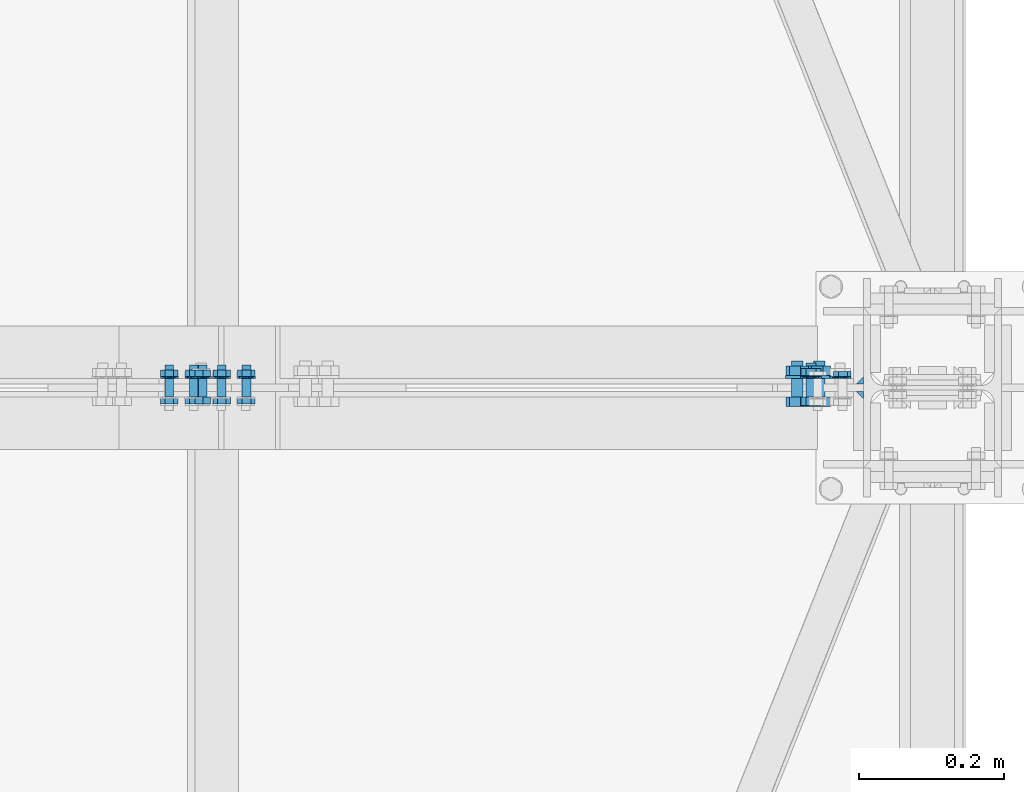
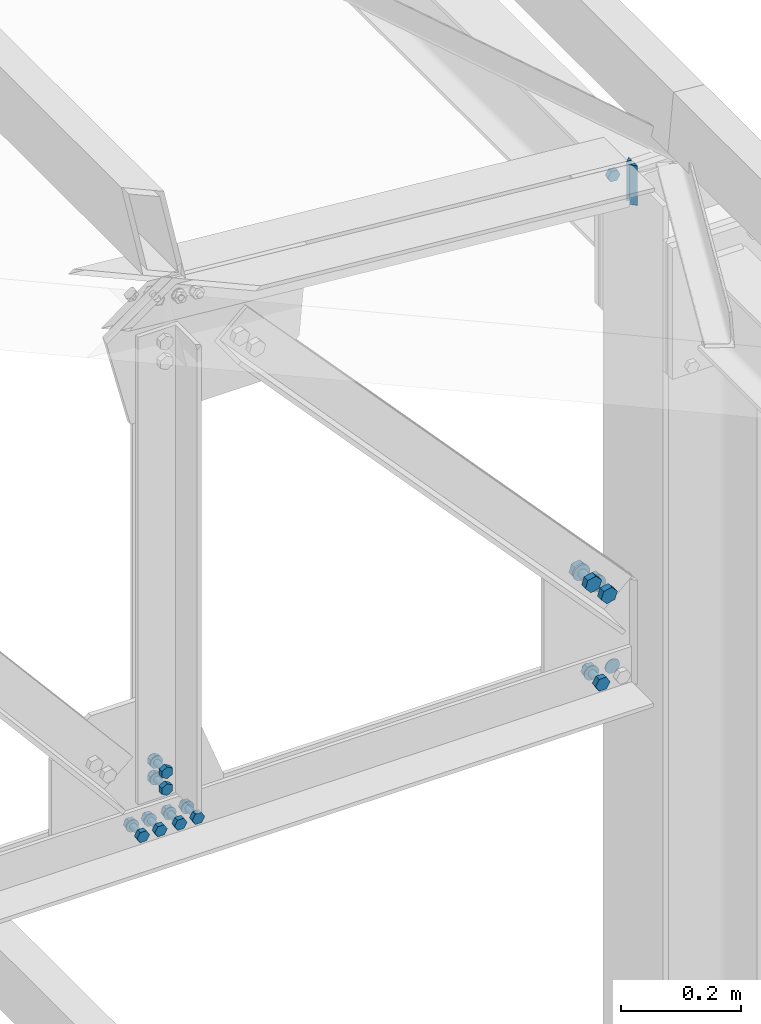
# One storey, part 161 of 251: 38 mechanical fasteners, 2 fasteners.
"""IFC4 building model written with IfcOpenShell, lengths in metres."""

import ifcopenshell
import ifcopenshell.guid

model = None  # the IFC model being written
_history = None  # IfcOwnerHistory: only IFC2X3 demands one
_inside = {}  # id of a spatial element -> (the spatial element, [elements in it])
_under = {}  # id of a project, library or spatial element -> (it, [spatial elements below it])
_declared = {}  # id of a project -> (the project, [libraries it declares])
_typed = {}  # id of a type object -> (the type object, [elements of that type])
_made_of = {}  # id of a material, layer set ... -> (it, [elements and type objects made of it])


def new_model(schema):
    """Start an empty IFC model of exactly this schema.

    Asked for "IFC4X3", IfcOpenShell would pick the latest addendum, in which some entities
    have other attributes; the version numbers below select the first issue.
    IFC2X3 requires an IfcOwnerHistory on every rooted entity: one is made here for all.
    """
    global model, _history
    if schema == "IFC4X3":
        model = ifcopenshell.file(schema_version=(4, 3, 0, 0))
    else:
        model = ifcopenshell.file(schema=schema)
    _inside.clear()
    _under.clear()
    _declared.clear()
    _typed.clear()
    _made_of.clear()
    _history = None
    if model.schema == "IFC2X3":
        org = make("IfcOrganization", Name="unknown")
        user = make(
            "IfcPersonAndOrganization",
            ThePerson=make("IfcPerson", FamilyName="unknown"),
            TheOrganization=org,
        )
        app = make(
            "IfcApplication",
            ApplicationDeveloper=org,
            Version="unknown",
            ApplicationFullName="unknown",
            ApplicationIdentifier="unknown",
        )
        _history = make(
            "IfcOwnerHistory",
            OwningUser=user,
            OwningApplication=app,
            ChangeAction="ADDED",
            CreationDate=0,
        )
    return model


def make(cls, **values):
    """One entity of the class cls with the attributes given. An attribute that is None is left unset."""
    return model.create_entity(
        cls, **{name: value for name, value in values.items() if value is not None}
    )


def rooted(cls, **values):
    """An entity with a GlobalId (a new one), such as an element, a storey or a relation."""
    return make(cls, GlobalId=ifcopenshell.guid.new(), OwnerHistory=_history, **values)


def si_unit(unit_type, name, prefix=None):
    """IfcSIUnit, for example si_unit("LENGTHUNIT", "METRE", prefix="MILLI")."""
    return make("IfcSIUnit", UnitType=unit_type, Prefix=prefix, Name=name)


def assignment(units):
    """IfcUnitAssignment: the units of a project."""
    return None if units is None else make("IfcUnitAssignment", Units=units)


def point(xyz):
    """IfcCartesianPoint."""
    return None if xyz is None else make("IfcCartesianPoint", Coordinates=xyz)


def direction(xyz):
    """IfcDirection."""
    return None if xyz is None else make("IfcDirection", DirectionRatios=xyz)


def frame(location, z_axis=None, x_axis=None):
    """IfcAxis2Placement3D, a coordinate frame: its origin and axes. An axis left out is left unset."""
    return make(
        "IfcAxis2Placement3D",
        Location=point(location),
        Axis=direction(z_axis),
        RefDirection=direction(x_axis),
    )


def origin_with_axes():
    """The frame at (0, 0, 0) with the z axis (0, 0, 1) and the x axis (1, 0, 0) written out."""
    return frame((0.0, 0.0, 0.0), z_axis=(0.0, 0.0, 1.0), x_axis=(1.0, 0.0, 0.0))


def place(relative_to, where):
    """IfcLocalPlacement: puts the frame where relative to a parent placement (None: the world)."""
    return make(
        "IfcLocalPlacement", PlacementRelTo=relative_to, RelativePlacement=where
    )


def context(
    kind, dimensions, precision=None, world=None, true_north=None, identifier=None
):
    """IfcGeometricRepresentationContext, for example the 3D "Model" context."""
    return make(
        "IfcGeometricRepresentationContext",
        ContextIdentifier=identifier,
        ContextType=kind,
        CoordinateSpaceDimension=dimensions,
        Precision=precision,
        WorldCoordinateSystem=world,
        TrueNorth=true_north,
    )


def project(units=None, contexts=None):
    """IfcProject with its units and contexts."""
    return rooted(
        "IfcProject",
        Name="project",
        RepresentationContexts=contexts,
        UnitsInContext=assignment(units),
    )


def spatial(cls, under=None, at=None, **own):
    """A site, building, storey or space (cls), placed at a placement, below another one or the project."""
    s = rooted(cls, ObjectPlacement=at, **own)
    if under is not None:
        _under.setdefault(under.id(), (under, []))[1].append(s)
    return s


def polyline(points):
    """IfcPolyline through the points."""
    return make("IfcPolyline", Points=[point(p) for p in points])


def outline(outer, holes=None, kind="AREA"):
    """IfcArbitraryClosedProfileDef: a profile drawn as a closed curve; with holes, ...WithVoids."""
    if holes is None:
        return make("IfcArbitraryClosedProfileDef", ProfileType=kind, OuterCurve=outer)
    return make(
        "IfcArbitraryProfileDefWithVoids",
        ProfileType=kind,
        OuterCurve=outer,
        InnerCurves=holes,
    )


def extrude(swept, where, along, depth):
    """IfcExtrudedAreaSolid: the profile swept, set in the frame where, extruded along a direction by depth."""
    return make(
        "IfcExtrudedAreaSolid",
        SweptArea=swept,
        Position=where,
        ExtrudedDirection=direction(along),
        Depth=depth,
    )


def shape(context_of_items, identifier, shape_type, items):
    """IfcShapeRepresentation: the items that make up one representation, for example the "Body"."""
    return make(
        "IfcShapeRepresentation",
        ContextOfItems=context_of_items,
        RepresentationIdentifier=identifier,
        RepresentationType=shape_type,
        Items=items,
    )


def made_of(thing, what):
    """Note that an element or type object is made of a material, layer set ...; save() writes the relation."""
    if what is not None:
        _made_of.setdefault(what.id(), (what, []))[1].append(thing)
    return thing


def type_object(cls, material=None, **own):
    """A type object (cls), such as IfcWallType, which elements share."""
    return made_of(rooted(cls, **own), material)


def element(
    cls,
    number,
    at=None,
    inside=None,
    cuts=None,
    type_object=None,
    material=None,
    context=None,
    identifier="Body",
    shape_type=None,
    held_by="IfcProductDefinitionShape",
    body=None,
    shapes=None,
    **own,
):
    """One element of the class cls, such as IfcWall. Its Tag is "e" and its number.

    at: its placement. inside: the storey or other place that contains it. cuts: it is an
    opening in that element (IfcRelVoidsElement). A single representation is given by context,
    identifier, shape_type and body (its items); several are given by shapes. held_by: the class
    of the entity that holds the representations. save() writes the other relations.
    """
    e = rooted(cls, Tag="e%d" % number, ObjectPlacement=at, **own)
    if body is not None:
        shapes = [shape(context, identifier, shape_type, body)]
    if shapes is not None:
        e.Representation = make(held_by, Representations=shapes)
    if inside is not None:
        _inside.setdefault(inside.id(), (inside, []))[1].append(e)
    if cuts is not None:
        rooted(
            "IfcRelVoidsElement", RelatingBuildingElement=cuts, RelatedOpeningElement=e
        )
    if type_object is not None:
        _typed.setdefault(type_object.id(), (type_object, []))[1].append(e)
    return made_of(e, material)


def aggregate(whole, parts):
    """IfcRelAggregates: a whole, such as a stair, and the parts it consists of."""
    return rooted("IfcRelAggregates", RelatingObject=whole, RelatedObjects=parts)


def save(model, path):
    """Write the relations noted so far, then the file.

    IfcRelAggregates (storeys below a building ...), IfcRelContainedInSpatialStructure (elements
    in a storey), IfcRelDefinesByType, IfcRelAssociatesMaterial and IfcRelDeclares: one each for
    every whole, place, type object, material and project.
    """
    for whole, parts in _under.values():
        aggregate(whole, parts)
    for where, things in _inside.values():
        rooted(
            "IfcRelContainedInSpatialStructure",
            RelatedElements=things,
            RelatingStructure=where,
        )
    for kind, things in _typed.values():
        rooted("IfcRelDefinesByType", RelatedObjects=things, RelatingType=kind)
    for what, things in _made_of.values():
        rooted("IfcRelAssociatesMaterial", RelatedObjects=things, RelatingMaterial=what)
    for by, libraries in _declared.values():
        rooted("IfcRelDeclares", RelatingContext=by, RelatedDefinitions=libraries)
    model.write(path)


model = new_model("IFC4")

# Units and contexts
model_context = context("Model", 3, precision=1e-05, world=origin_with_axes())
ifc_project = project(units=[si_unit("LENGTHUNIT", "METRE"), si_unit("AREAUNIT", "SQUARE_METRE"), si_unit("VOLUMEUNIT", "CUBIC_METRE"), si_unit("MASSUNIT", "GRAM", prefix="KILO"), si_unit("TIMEUNIT", "SECOND"), si_unit("PLANEANGLEUNIT", "RADIAN"), si_unit("SOLIDANGLEUNIT", "STERADIAN"), si_unit("THERMODYNAMICTEMPERATUREUNIT", "DEGREE_CELSIUS")], contexts=[model_context])

# Site, building, storey
placement_1 = place(None, origin_with_axes())
site = spatial("IfcSite", under=ifc_project, at=placement_1, Name="Italia", CompositionType="ELEMENT")
building = spatial("IfcBuilding", under=site, at=placement_1, Name="Deposito", CompositionType="ELEMENT")
storey = spatial("IfcBuildingStorey", under=building, at=placement_1, Name="Storey 0", CompositionType="ELEMENT", Elevation=0.0)

# Mechanical fasteners
mechanical_fastener_type_1 = type_object("IfcMechanicalFastenerType", Name="Reticolare 4", PredefinedType="BOLT")
placement_2 = place(placement_1, origin_with_axes())
mechanical_fastener_1_placement = place(placement_2, origin_with_axes())
element("IfcMechanicalFastener", 1, at=mechanical_fastener_1_placement, inside=storey, type_object=mechanical_fastener_type_1, Name="Reticolare 4", NominalDiameter=0.028, context=model_context, shape_type="SweptSolid", body=[
    extrude(outline(polyline([(0.0, 0.0), (-0.000476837, -0.00362349), (-0.00187492, -0.00699997), (-0.0041008, -0.00989962), (-0.00699997, -0.0121245), (-0.010376, -0.0135231), (-0.0139999, -0.0139999), (-0.0176239, -0.0135231), (-0.0209999, -0.0121245), (-0.0238991, -0.00989962), (-0.026125, -0.00699997), (-0.027523, -0.00362349), (-0.0279999, 0.0), (-0.027523, 0.00362349), (-0.026125, 0.00699997), (-0.0238991, 0.00989962), (-0.0209999, 0.0121245), (-0.0176239, 0.0135231), (-0.0139999, 0.0139999), (-0.010376, 0.0135231), (-0.00699997, 0.0121245), (-0.0041008, 0.00989962), (-0.00187492, 0.00699997), (-0.000476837, 0.00362349), (0.0, 0.0)])), frame((19.887, 10.015, 5.009), z_axis=(0.0, -1.0, 0.0), x_axis=(1.0, 0.0, 0.0)), (0.0, 0.0, 1.0), 0.00200081),
])
mechanical_fastener_type_2 = type_object("IfcMechanicalFastenerType", Name="Reticolare 4", PredefinedType="BOLT")
mechanical_fastener_2_placement = place(placement_2, origin_with_axes())
element("IfcMechanicalFastener", 2, at=mechanical_fastener_2_placement, inside=storey, type_object=mechanical_fastener_type_2, Name="Reticolare 4", NominalDiameter=0.0139997, context=model_context, shape_type="SweptSolid", body=[
    extrude(outline(polyline([(0.0, 0.0), (-0.0139999, 0.0), (-0.0209999, 0.0121241), (-0.0139999, 0.0242486), (0.0, 0.0242486), (0.00699997, 0.0121241), (0.0, 0.0)])), frame((19.84, 9.987, 4.99688), z_axis=(0.0, -1.0, 0.0), x_axis=(1.0, 0.0, 0.0)), (0.0, 0.0, 1.0), 0.0112009),
])
mechanical_fastener_type_3 = type_object("IfcMechanicalFastenerType", Name="Reticolare 4", PredefinedType="BOLT")
mechanical_fastener_3_placement = place(placement_2, origin_with_axes())
element("IfcMechanicalFastener", 3, at=mechanical_fastener_3_placement, inside=storey, type_object=mechanical_fastener_type_3, Name="Reticolare 4", NominalDiameter=0.014, context=model_context, shape_type="SweptSolid", body=[
    extrude(outline(polyline([(0.0, 0.0), (-0.000238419, -0.0018115), (-0.000938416, -0.00349998), (-0.0020504, -0.00494957), (-0.00349998, -0.00606203), (-0.00518799, -0.00676155), (-0.00699997, -0.00699997), (-0.00881195, -0.00676155), (-0.0105, -0.00606203), (-0.0119495, -0.00494957), (-0.0130615, -0.00349998), (-0.0137615, -0.0018115), (-0.0139999, 0.0), (-0.0137615, 0.0018115), (-0.0130615, 0.00349998), (-0.0119495, 0.00494957), (-0.0105, 0.00606203), (-0.00881195, 0.00676155), (-0.00699997, 0.00699997), (-0.00518799, 0.00676155), (-0.00349998, 0.00606203), (-0.0020504, 0.00494957), (-0.000938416, 0.00349998), (-0.000238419, 0.0018115), (0.0, 0.0)])), frame((19.84, 10.034, 5.009), z_axis=(0.0, -1.0, 0.0), x_axis=(1.0, 0.0, 0.0)), (0.0, 0.0, 1.0), 0.0469999),
])
mechanical_fastener_type_4 = type_object("IfcMechanicalFastenerType", Name="Reticolare 4", PredefinedType="BOLT")
mechanical_fastener_4_placement = place(placement_2, origin_with_axes())
element("IfcMechanicalFastener", 4, at=mechanical_fastener_4_placement, inside=storey, type_object=mechanical_fastener_type_4, Name="Reticolare 4", NominalDiameter=0.0139997, context=model_context, shape_type="SweptSolid", body=[
    extrude(outline(polyline([(0.0, 0.0), (-0.0139999, 0.0), (-0.0209999, 0.0121241), (-0.0139999, 0.0242486), (0.0, 0.0242486), (0.00699997, 0.0121241), (0.0, 0.0)])), frame((19.84, 10.0262, 4.99688), z_axis=(0.0, -1.0, 0.0), x_axis=(1.0, 0.0, 0.0)), (0.0, 0.0, 1.0), 0.0112),
])
mechanical_fastener_type_5 = type_object("IfcMechanicalFastenerType", Name="Reticolare 4", PredefinedType="BOLT")
mechanical_fastener_5_placement = place(placement_2, origin_with_axes())
element("IfcMechanicalFastener", 5, at=mechanical_fastener_5_placement, inside=storey, type_object=mechanical_fastener_type_5, Name="Reticolare 4", NominalDiameter=0.028, context=model_context, shape_type="SweptSolid", body=[
    extrude(outline(polyline([(0.0, 0.0), (-0.000476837, -0.00362349), (-0.00187492, -0.00699997), (-0.0041008, -0.00989962), (-0.00699997, -0.0121245), (-0.010376, -0.0135231), (-0.0139999, -0.0139999), (-0.0176239, -0.0135231), (-0.0209999, -0.0121245), (-0.0238991, -0.00989962), (-0.026125, -0.00699997), (-0.027523, -0.00362349), (-0.0279999, 0.0), (-0.027523, 0.00362349), (-0.026125, 0.00699997), (-0.0238991, 0.00989962), (-0.0209999, 0.0121245), (-0.0176239, 0.0135231), (-0.0139999, 0.0139999), (-0.010376, 0.0135231), (-0.00699997, 0.0121245), (-0.0041008, 0.00989962), (-0.00187492, 0.00699997), (-0.000476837, 0.00362349), (0.0, 0.0)])), frame((19.847, 10.015, 5.009), z_axis=(0.0, -1.0, 0.0), x_axis=(1.0, 0.0, 0.0)), (0.0, 0.0, 1.0), 0.00200081),
])
mechanical_fastener_type_6 = type_object("IfcMechanicalFastenerType", Name="Reticolare 4", PredefinedType="BOLT")
mechanical_fastener_6_placement = place(placement_2, origin_with_axes())
element("IfcMechanicalFastener", 6, at=mechanical_fastener_6_placement, inside=storey, type_object=mechanical_fastener_type_6, Name="Reticolare 4", NominalDiameter=0.0159985, context=model_context, shape_type="SweptSolid", body=[
    extrude(outline(polyline([(0.0, 0.0), (-0.0108109, 0.0117965), (-0.00599861, 0.0270557), (0.00962257, 0.030519), (0.0204315, 0.0187225), (0.0156193, 0.00346279), (0.0, 0.0)])), frame((19.8397, 9.987, 5.17076), z_axis=(0.0, -1.0, 0.0), x_axis=(1.0, 0.0, 0.0)), (0.0, 0.0, 1.0), 0.0128002),
])
mechanical_fastener_type_7 = type_object("IfcMechanicalFastenerType", Name="Reticolare 4", PredefinedType="BOLT")
mechanical_fastener_7_placement = place(placement_2, origin_with_axes())
element("IfcMechanicalFastener", 7, at=mechanical_fastener_7_placement, inside=storey, type_object=mechanical_fastener_type_7, Name="Reticolare 4", NominalDiameter=0.016, context=model_context, shape_type="SweptSolid", body=[
    extrude(outline(polyline([(0.0, 0.0), (-0.000272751, -0.00207043), (-0.00107193, -0.00400019), (-0.00234222, -0.00565672), (-0.00399971, -0.00692797), (-0.00592804, -0.00772762), (-0.00799942, -0.0079999), (-0.0100708, -0.00772762), (-0.0119991, -0.00692797), (-0.0136566, -0.00565672), (-0.0149269, -0.00400019), (-0.0157261, -0.00207043), (-0.0159988, 0.0), (-0.0157261, 0.00207043), (-0.0149269, 0.00400019), (-0.0136566, 0.00565672), (-0.0119991, 0.00692797), (-0.0100708, 0.00772762), (-0.00799942, 0.0079999), (-0.00592804, 0.00772762), (-0.00399971, 0.00692797), (-0.00234222, 0.00565672), (-0.00107193, 0.00400019), (-0.000272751, 0.00207043), (0.0, 0.0)])), frame((19.8525, 10.037, 5.18602), z_axis=(0.0, -1.0, 0.0), x_axis=(1.0, 0.0, 0.0)), (0.0, 0.0, 1.0), 0.0499992),
])
mechanical_fastener_type_8 = type_object("IfcMechanicalFastenerType", Name="Reticolare 4", PredefinedType="BOLT")
mechanical_fastener_8_placement = place(placement_2, origin_with_axes())
element("IfcMechanicalFastener", 8, at=mechanical_fastener_8_placement, inside=storey, type_object=mechanical_fastener_type_8, Name="Reticolare 4", NominalDiameter=0.0159985, context=model_context, shape_type="SweptSolid", body=[
    extrude(outline(polyline([(0.0, 0.0), (-0.0108109, 0.0117965), (-0.00599861, 0.0270557), (0.00962257, 0.030519), (0.0204315, 0.0187225), (0.0156193, 0.00346279), (0.0, 0.0)])), frame((19.8397, 10.0298, 5.17076), z_axis=(0.0, -1.0, 0.0), x_axis=(1.0, 0.0, 0.0)), (0.0, 0.0, 1.0), 0.0128002),
])
mechanical_fastener_type_9 = type_object("IfcMechanicalFastenerType", Name="Reticolare 4", PredefinedType="BOLT")
mechanical_fastener_9_placement = place(placement_2, origin_with_axes())
element("IfcMechanicalFastener", 9, at=mechanical_fastener_9_placement, inside=storey, type_object=mechanical_fastener_type_9, Name="Reticolare 4", NominalDiameter=0.032, context=model_context, shape_type="SweptSolid", body=[
    extrude(outline(polyline([(0.0, 0.0), (-0.000545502, -0.00414133), (-0.00214386, -0.0079999), (-0.00468636, -0.0113139), (-0.00800133, -0.0138564), (-0.0118599, -0.0154548), (-0.0160007, -0.0159998), (-0.0201416, -0.0154548), (-0.0240002, -0.0138564), (-0.0273151, -0.0113139), (-0.0298576, -0.0079999), (-0.031456, -0.00414133), (-0.0320015, 0.0), (-0.031456, 0.00414133), (-0.0298576, 0.0079999), (-0.0273151, 0.0113139), (-0.0240002, 0.0138564), (-0.0201416, 0.0154548), (-0.0160007, 0.0159998), (-0.0118599, 0.0154548), (-0.00800133, 0.0138564), (-0.00468636, 0.0113139), (-0.00214386, 0.0079999), (-0.000545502, 0.00414133), (0.0, 0.0)])), frame((19.8605, 10.017, 5.18602), z_axis=(0.0, -1.0, 0.0), x_axis=(1.0, 0.0, 0.0)), (0.0, 0.0, 1.0), 0.00400066),
])
mechanical_fastener_type_10 = type_object("IfcMechanicalFastenerType", Name="Reticolare 4", PredefinedType="BOLT")
mechanical_fastener_10_placement = place(placement_2, origin_with_axes())
element("IfcMechanicalFastener", 10, at=mechanical_fastener_10_placement, inside=storey, type_object=mechanical_fastener_type_10, Name="Reticolare 4", NominalDiameter=0.0159985, context=model_context, shape_type="SweptSolid", body=[
    extrude(outline(polyline([(0.0, 0.0), (-0.0108089, 0.0117965), (-0.0059967, 0.0270562), (0.00962257, 0.030519), (0.0204334, 0.0187225), (0.0156212, 0.00346327), (0.0, 0.0)])), frame((19.8093, 9.987, 5.20394), z_axis=(0.0, -1.0, 0.0), x_axis=(1.0, 0.0, 0.0)), (0.0, 0.0, 1.0), 0.0128002),
])
mechanical_fastener_type_11 = type_object("IfcMechanicalFastenerType", Name="Reticolare 4", PredefinedType="BOLT")
mechanical_fastener_11_placement = place(placement_2, origin_with_axes())
element("IfcMechanicalFastener", 11, at=mechanical_fastener_11_placement, inside=storey, type_object=mechanical_fastener_type_11, Name="Reticolare 4", NominalDiameter=0.016, context=model_context, shape_type="SweptSolid", body=[
    extrude(outline(polyline([(0.0, 0.0), (-0.000272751, -0.00207043), (-0.00107193, -0.00400019), (-0.00234222, -0.00565672), (-0.00399971, -0.00692797), (-0.00592804, -0.00772762), (-0.00799942, -0.0079999), (-0.0100708, -0.00772762), (-0.0119991, -0.00692797), (-0.0136566, -0.00565672), (-0.0149269, -0.00400019), (-0.0157261, -0.00207043), (-0.0159988, 0.0), (-0.0157261, 0.00207043), (-0.0149269, 0.00400019), (-0.0136566, 0.00565672), (-0.0119991, 0.00692797), (-0.0100708, 0.00772762), (-0.00799942, 0.0079999), (-0.00592804, 0.00772762), (-0.00399971, 0.00692797), (-0.00234222, 0.00565672), (-0.00107193, 0.00400019), (-0.000272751, 0.00207043), (0.0, 0.0)])), frame((19.8221, 10.037, 5.2192), z_axis=(0.0, -1.0, 0.0), x_axis=(1.0, 0.0, 0.0)), (0.0, 0.0, 1.0), 0.0499992),
])
mechanical_fastener_type_12 = type_object("IfcMechanicalFastenerType", Name="Reticolare 4", PredefinedType="BOLT")
mechanical_fastener_12_placement = place(placement_2, origin_with_axes())
element("IfcMechanicalFastener", 12, at=mechanical_fastener_12_placement, inside=storey, type_object=mechanical_fastener_type_12, Name="Reticolare 4", NominalDiameter=0.0159985, context=model_context, shape_type="SweptSolid", body=[
    extrude(outline(polyline([(0.0, 0.0), (-0.0108089, 0.0117965), (-0.0059967, 0.0270562), (0.00962257, 0.030519), (0.0204334, 0.0187225), (0.0156212, 0.00346327), (0.0, 0.0)])), frame((19.8093, 10.0298, 5.20394), z_axis=(0.0, -1.0, 0.0), x_axis=(1.0, 0.0, 0.0)), (0.0, 0.0, 1.0), 0.0128002),
])
mechanical_fastener_type_13 = type_object("IfcMechanicalFastenerType", Name="Reticolare 4", PredefinedType="BOLT")
mechanical_fastener_13_placement = place(placement_2, origin_with_axes())
element("IfcMechanicalFastener", 13, at=mechanical_fastener_13_placement, inside=storey, type_object=mechanical_fastener_type_13, Name="Reticolare 4", NominalDiameter=0.032, context=model_context, shape_type="SweptSolid", body=[
    extrude(outline(polyline([(0.0, 0.0), (-0.000545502, -0.00414133), (-0.00214386, -0.0079999), (-0.00468636, -0.0113139), (-0.00800133, -0.0138564), (-0.0118599, -0.0154548), (-0.0160007, -0.0159998), (-0.0201416, -0.0154548), (-0.0240002, -0.0138564), (-0.0273151, -0.0113139), (-0.0298576, -0.0079999), (-0.031456, -0.00414133), (-0.0320015, 0.0), (-0.031456, 0.00414133), (-0.0298576, 0.0079999), (-0.0273151, 0.0113139), (-0.0240002, 0.0138564), (-0.0201416, 0.0154548), (-0.0160007, 0.0159998), (-0.0118599, 0.0154548), (-0.00800133, 0.0138564), (-0.00468636, 0.0113139), (-0.00214386, 0.0079999), (-0.000545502, 0.00414133), (0.0, 0.0)])), frame((19.8301, 10.017, 5.2192), z_axis=(0.0, -1.0, 0.0), x_axis=(1.0, 0.0, 0.0)), (0.0, 0.0, 1.0), 0.00400066),
])
mechanical_fastener_type_14 = type_object("IfcMechanicalFastenerType", Name="Reticolare 4", PredefinedType="BOLT")
mechanical_fastener_14_placement = place(placement_2, origin_with_axes())
element("IfcMechanicalFastener", 14, at=mechanical_fastener_14_placement, inside=storey, type_object=mechanical_fastener_type_14, Name="Reticolare 4", NominalDiameter=0.0119991, context=model_context, shape_type="SweptSolid", body=[
    extrude(outline(polyline([(0.0, 0.0), (-0.0119991, 0.0), (-0.0179996, 0.0103922), (-0.0119991, 0.0207844), (0.0, 0.0207844), (0.00600052, 0.0103922), (0.0, 0.0)])), frame((18.9908, 9.987, 4.99661), z_axis=(0.0, -1.0, 0.0), x_axis=(1.0, 0.0, 0.0)), (0.0, 0.0, 1.0), 0.00960064),
])
mechanical_fastener_type_15 = type_object("IfcMechanicalFastenerType", Name="Reticolare 4", PredefinedType="BOLT")
mechanical_fastener_15_placement = place(placement_2, origin_with_axes())
element("IfcMechanicalFastener", 15, at=mechanical_fastener_15_placement, inside=storey, type_object=mechanical_fastener_type_15, Name="Reticolare 4", NominalDiameter=0.012, context=model_context, shape_type="SweptSolid", body=[
    extrude(outline(polyline([(0.0, 0.0), (-0.000204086, -0.00155306), (-0.000804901, -0.00299978), (-0.00175858, -0.00424242), (-0.00300026, -0.00519609), (-0.00444794, -0.00579548), (-0.00600052, -0.00600004), (-0.0075531, -0.00579548), (-0.00900078, -0.00519609), (-0.0102425, -0.00424242), (-0.0111961, -0.00299978), (-0.011797, -0.00155306), (-0.012001, 0.0), (-0.011797, 0.00155306), (-0.0111961, 0.00299978), (-0.0102425, 0.00424242), (-0.00900078, 0.00519609), (-0.0075531, 0.00579548), (-0.00600052, 0.00600004), (-0.00444794, 0.00579548), (-0.00300026, 0.00519609), (-0.00175858, 0.00424242), (-0.000804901, 0.00299978), (-0.000204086, 0.00155306), (0.0, 0.0)])), frame((18.9908, 10.031, 5.007), z_axis=(0.0, -1.0, 0.0), x_axis=(1.0, 0.0, 0.0)), (0.0, 0.0, 1.0), 0.0439997),
])
mechanical_fastener_type_16 = type_object("IfcMechanicalFastenerType", Name="Reticolare 4", PredefinedType="BOLT")
mechanical_fastener_16_placement = place(placement_2, origin_with_axes())
element("IfcMechanicalFastener", 16, at=mechanical_fastener_16_placement, inside=storey, type_object=mechanical_fastener_type_16, Name="Reticolare 4", NominalDiameter=0.0119991, context=model_context, shape_type="SweptSolid", body=[
    extrude(outline(polyline([(0.0, 0.0), (-0.0119991, 0.0), (-0.0179996, 0.0103922), (-0.0119991, 0.0207844), (0.0, 0.0207844), (0.00600052, 0.0103922), (0.0, 0.0)])), frame((18.9908, 10.0246, 4.99661), z_axis=(0.0, -1.0, 0.0), x_axis=(1.0, 0.0, 0.0)), (0.0, 0.0, 1.0), 0.00959969),
])
mechanical_fastener_type_17 = type_object("IfcMechanicalFastenerType", Name="Reticolare 4", PredefinedType="BOLT")
mechanical_fastener_17_placement = place(placement_2, origin_with_axes())
element("IfcMechanicalFastener", 17, at=mechanical_fastener_17_placement, inside=storey, type_object=mechanical_fastener_type_17, Name="Reticolare 4", NominalDiameter=0.024, context=model_context, shape_type="SweptSolid", body=[
    extrude(outline(polyline([(0.0, 0.0), (-0.000408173, -0.00310564), (-0.00160599, -0.00600004), (-0.00351334, -0.00848532), (-0.00599861, -0.0103922), (-0.00889397, -0.011591), (-0.0119991, -0.0120001), (-0.0151043, -0.011591), (-0.0179996, -0.0103922), (-0.0204849, -0.00848532), (-0.0223923, -0.00600004), (-0.0235901, -0.00310564), (-0.0239983, 0.0), (-0.0235901, 0.00310564), (-0.0223923, 0.00600004), (-0.0204849, 0.00848532), (-0.0179996, 0.0103922), (-0.0151043, 0.011591), (-0.0119991, 0.0120001), (-0.00889397, 0.011591), (-0.00599861, 0.0103922), (-0.00351334, 0.00848532), (-0.00160599, 0.00600004), (-0.000408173, 0.00310564), (0.0, 0.0)])), frame((18.9968, 10.015, 5.007), z_axis=(0.0, -1.0, 0.0), x_axis=(1.0, 0.0, 0.0)), (0.0, 0.0, 1.0), 0.00200081),
])
mechanical_fastener_type_18 = type_object("IfcMechanicalFastenerType", Name="Reticolare 4", PredefinedType="BOLT")
mechanical_fastener_18_placement = place(placement_2, origin_with_axes())
element("IfcMechanicalFastener", 18, at=mechanical_fastener_18_placement, inside=storey, type_object=mechanical_fastener_type_18, Name="Reticolare 4", NominalDiameter=0.0119991, context=model_context, shape_type="SweptSolid", body=[
    extrude(outline(polyline([(0.0, 0.0), (-0.0119991, 0.0), (-0.0179996, 0.0103922), (-0.0119991, 0.0207844), (0.0, 0.0207844), (0.00600052, 0.0103922), (0.0, 0.0)])), frame((18.9568, 9.987, 4.99661), z_axis=(0.0, -1.0, 0.0), x_axis=(1.0, 0.0, 0.0)), (0.0, 0.0, 1.0), 0.00960064),
])
mechanical_fastener_type_19 = type_object("IfcMechanicalFastenerType", Name="Reticolare 4", PredefinedType="BOLT")
mechanical_fastener_19_placement = place(placement_2, origin_with_axes())
element("IfcMechanicalFastener", 19, at=mechanical_fastener_19_placement, inside=storey, type_object=mechanical_fastener_type_19, Name="Reticolare 4", NominalDiameter=0.012, context=model_context, shape_type="SweptSolid", body=[
    extrude(outline(polyline([(0.0, 0.0), (-0.000204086, -0.00155306), (-0.000804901, -0.00299978), (-0.00175858, -0.00424242), (-0.00300026, -0.00519609), (-0.00444794, -0.00579548), (-0.00600052, -0.00600004), (-0.0075531, -0.00579548), (-0.00900078, -0.00519609), (-0.0102425, -0.00424242), (-0.0111961, -0.00299978), (-0.011797, -0.00155306), (-0.012001, 0.0), (-0.011797, 0.00155306), (-0.0111961, 0.00299978), (-0.0102425, 0.00424242), (-0.00900078, 0.00519609), (-0.0075531, 0.00579548), (-0.00600052, 0.00600004), (-0.00444794, 0.00579548), (-0.00300026, 0.00519609), (-0.00175858, 0.00424242), (-0.000804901, 0.00299978), (-0.000204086, 0.00155306), (0.0, 0.0)])), frame((18.9568, 10.031, 5.007), z_axis=(0.0, -1.0, 0.0), x_axis=(1.0, 0.0, 0.0)), (0.0, 0.0, 1.0), 0.0439997),
])
mechanical_fastener_type_20 = type_object("IfcMechanicalFastenerType", Name="Reticolare 4", PredefinedType="BOLT")
mechanical_fastener_20_placement = place(placement_2, origin_with_axes())
element("IfcMechanicalFastener", 20, at=mechanical_fastener_20_placement, inside=storey, type_object=mechanical_fastener_type_20, Name="Reticolare 4", NominalDiameter=0.0119991, context=model_context, shape_type="SweptSolid", body=[
    extrude(outline(polyline([(0.0, 0.0), (-0.0119991, 0.0), (-0.0179996, 0.0103922), (-0.0119991, 0.0207844), (0.0, 0.0207844), (0.00600052, 0.0103922), (0.0, 0.0)])), frame((18.9568, 10.0246, 4.99661), z_axis=(0.0, -1.0, 0.0), x_axis=(1.0, 0.0, 0.0)), (0.0, 0.0, 1.0), 0.00959969),
])
mechanical_fastener_type_21 = type_object("IfcMechanicalFastenerType", Name="Reticolare 4", PredefinedType="BOLT")
mechanical_fastener_21_placement = place(placement_2, origin_with_axes())
element("IfcMechanicalFastener", 21, at=mechanical_fastener_21_placement, inside=storey, type_object=mechanical_fastener_type_21, Name="Reticolare 4", NominalDiameter=0.024, context=model_context, shape_type="SweptSolid", body=[
    extrude(outline(polyline([(0.0, 0.0), (-0.000408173, -0.00310564), (-0.00160599, -0.00600004), (-0.00351334, -0.00848532), (-0.00599861, -0.0103922), (-0.00889397, -0.011591), (-0.0119991, -0.0120001), (-0.0151043, -0.011591), (-0.0179996, -0.0103922), (-0.0204849, -0.00848532), (-0.0223923, -0.00600004), (-0.0235901, -0.00310564), (-0.0239983, 0.0), (-0.0235901, 0.00310564), (-0.0223923, 0.00600004), (-0.0204849, 0.00848532), (-0.0179996, 0.0103922), (-0.0151043, 0.011591), (-0.0119991, 0.0120001), (-0.00889397, 0.011591), (-0.00599861, 0.0103922), (-0.00351334, 0.00848532), (-0.00160599, 0.00600004), (-0.000408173, 0.00310564), (0.0, 0.0)])), frame((18.9628, 10.015, 5.007), z_axis=(0.0, -1.0, 0.0), x_axis=(1.0, 0.0, 0.0)), (0.0, 0.0, 1.0), 0.00200081),
])
mechanical_fastener_type_22 = type_object("IfcMechanicalFastenerType", Name="Reticolare 4", PredefinedType="BOLT")
mechanical_fastener_22_placement = place(placement_2, origin_with_axes())
element("IfcMechanicalFastener", 22, at=mechanical_fastener_22_placement, inside=storey, type_object=mechanical_fastener_type_22, Name="Reticolare 4", NominalDiameter=0.0119991, context=model_context, shape_type="SweptSolid", body=[
    extrude(outline(polyline([(0.0, 0.0), (-0.0119991, 0.0), (-0.0179996, 0.0103922), (-0.0119991, 0.0207844), (0.0, 0.0207844), (0.00600052, 0.0103922), (0.0, 0.0)])), frame((19.0288, 9.987, 4.99661), z_axis=(0.0, -1.0, 0.0), x_axis=(1.0, 0.0, 0.0)), (0.0, 0.0, 1.0), 0.00960064),
])
mechanical_fastener_type_23 = type_object("IfcMechanicalFastenerType", Name="Reticolare 4", PredefinedType="BOLT")
mechanical_fastener_23_placement = place(placement_2, origin_with_axes())
element("IfcMechanicalFastener", 23, at=mechanical_fastener_23_placement, inside=storey, type_object=mechanical_fastener_type_23, Name="Reticolare 4", NominalDiameter=0.012, context=model_context, shape_type="SweptSolid", body=[
    extrude(outline(polyline([(0.0, 0.0), (-0.000204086, -0.00155306), (-0.000804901, -0.00299978), (-0.00175858, -0.00424242), (-0.00300026, -0.00519609), (-0.00444794, -0.00579548), (-0.00600052, -0.00600004), (-0.0075531, -0.00579548), (-0.00900078, -0.00519609), (-0.0102425, -0.00424242), (-0.0111961, -0.00299978), (-0.011797, -0.00155306), (-0.012001, 0.0), (-0.011797, 0.00155306), (-0.0111961, 0.00299978), (-0.0102425, 0.00424242), (-0.00900078, 0.00519609), (-0.0075531, 0.00579548), (-0.00600052, 0.00600004), (-0.00444794, 0.00579548), (-0.00300026, 0.00519609), (-0.00175858, 0.00424242), (-0.000804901, 0.00299978), (-0.000204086, 0.00155306), (0.0, 0.0)])), frame((19.0288, 10.031, 5.007), z_axis=(0.0, -1.0, 0.0), x_axis=(1.0, 0.0, 0.0)), (0.0, 0.0, 1.0), 0.0439997),
])
mechanical_fastener_type_24 = type_object("IfcMechanicalFastenerType", Name="Reticolare 4", PredefinedType="BOLT")
mechanical_fastener_24_placement = place(placement_2, origin_with_axes())
element("IfcMechanicalFastener", 24, at=mechanical_fastener_24_placement, inside=storey, type_object=mechanical_fastener_type_24, Name="Reticolare 4", NominalDiameter=0.0119991, context=model_context, shape_type="SweptSolid", body=[
    extrude(outline(polyline([(0.0, 0.0), (-0.0119991, 0.0), (-0.0179996, 0.0103922), (-0.0119991, 0.0207844), (0.0, 0.0207844), (0.00600052, 0.0103922), (0.0, 0.0)])), frame((19.0288, 10.0246, 4.99661), z_axis=(0.0, -1.0, 0.0), x_axis=(1.0, 0.0, 0.0)), (0.0, 0.0, 1.0), 0.00959969),
])
mechanical_fastener_type_25 = type_object("IfcMechanicalFastenerType", Name="Reticolare 4", PredefinedType="BOLT")
mechanical_fastener_25_placement = place(placement_2, origin_with_axes())
element("IfcMechanicalFastener", 25, at=mechanical_fastener_25_placement, inside=storey, type_object=mechanical_fastener_type_25, Name="Reticolare 4", NominalDiameter=0.024, context=model_context, shape_type="SweptSolid", body=[
    extrude(outline(polyline([(0.0, 0.0), (-0.000408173, -0.00310564), (-0.00160599, -0.00600004), (-0.00351334, -0.00848532), (-0.00599861, -0.0103922), (-0.00889397, -0.011591), (-0.0119991, -0.0120001), (-0.0151043, -0.011591), (-0.0179996, -0.0103922), (-0.0204849, -0.00848532), (-0.0223923, -0.00600004), (-0.0235901, -0.00310564), (-0.0239983, 0.0), (-0.0235901, 0.00310564), (-0.0223923, 0.00600004), (-0.0204849, 0.00848532), (-0.0179996, 0.0103922), (-0.0151043, 0.011591), (-0.0119991, 0.0120001), (-0.00889397, 0.011591), (-0.00599861, 0.0103922), (-0.00351334, 0.00848532), (-0.00160599, 0.00600004), (-0.000408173, 0.00310564), (0.0, 0.0)])), frame((19.0348, 10.015, 5.007), z_axis=(0.0, -1.0, 0.0), x_axis=(1.0, 0.0, 0.0)), (0.0, 0.0, 1.0), 0.00200081),
])
mechanical_fastener_type_26 = type_object("IfcMechanicalFastenerType", Name="Reticolare 4", PredefinedType="BOLT")
mechanical_fastener_26_placement = place(placement_2, origin_with_axes())
element("IfcMechanicalFastener", 26, at=mechanical_fastener_26_placement, inside=storey, type_object=mechanical_fastener_type_26, Name="Reticolare 4", NominalDiameter=0.0119991, context=model_context, shape_type="SweptSolid", body=[
    extrude(outline(polyline([(0.0, 0.0), (-0.0119991, 0.0), (-0.0179996, 0.0103922), (-0.0119991, 0.0207844), (0.0, 0.0207844), (0.00600052, 0.0103922), (0.0, 0.0)])), frame((19.0628, 9.987, 4.99661), z_axis=(0.0, -1.0, 0.0), x_axis=(1.0, 0.0, 0.0)), (0.0, 0.0, 1.0), 0.00960064),
])
mechanical_fastener_type_27 = type_object("IfcMechanicalFastenerType", Name="Reticolare 4", PredefinedType="BOLT")
mechanical_fastener_27_placement = place(placement_2, origin_with_axes())
element("IfcMechanicalFastener", 27, at=mechanical_fastener_27_placement, inside=storey, type_object=mechanical_fastener_type_27, Name="Reticolare 4", NominalDiameter=0.012, context=model_context, shape_type="SweptSolid", body=[
    extrude(outline(polyline([(0.0, 0.0), (-0.000204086, -0.00155306), (-0.000804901, -0.00299978), (-0.00175858, -0.00424242), (-0.00300026, -0.00519609), (-0.00444794, -0.00579548), (-0.00600052, -0.00600004), (-0.0075531, -0.00579548), (-0.00900078, -0.00519609), (-0.0102425, -0.00424242), (-0.0111961, -0.00299978), (-0.011797, -0.00155306), (-0.012001, 0.0), (-0.011797, 0.00155306), (-0.0111961, 0.00299978), (-0.0102425, 0.00424242), (-0.00900078, 0.00519609), (-0.0075531, 0.00579548), (-0.00600052, 0.00600004), (-0.00444794, 0.00579548), (-0.00300026, 0.00519609), (-0.00175858, 0.00424242), (-0.000804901, 0.00299978), (-0.000204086, 0.00155306), (0.0, 0.0)])), frame((19.0628, 10.031, 5.007), z_axis=(0.0, -1.0, 0.0), x_axis=(1.0, 0.0, 0.0)), (0.0, 0.0, 1.0), 0.0439997),
])
mechanical_fastener_type_28 = type_object("IfcMechanicalFastenerType", Name="Reticolare 4", PredefinedType="BOLT")
mechanical_fastener_28_placement = place(placement_2, origin_with_axes())
element("IfcMechanicalFastener", 28, at=mechanical_fastener_28_placement, inside=storey, type_object=mechanical_fastener_type_28, Name="Reticolare 4", NominalDiameter=0.0119991, context=model_context, shape_type="SweptSolid", body=[
    extrude(outline(polyline([(0.0, 0.0), (-0.0119991, 0.0), (-0.0179996, 0.0103922), (-0.0119991, 0.0207844), (0.0, 0.0207844), (0.00600052, 0.0103922), (0.0, 0.0)])), frame((19.0628, 10.0246, 4.99661), z_axis=(0.0, -1.0, 0.0), x_axis=(1.0, 0.0, 0.0)), (0.0, 0.0, 1.0), 0.00959969),
])
mechanical_fastener_type_29 = type_object("IfcMechanicalFastenerType", Name="Reticolare 4", PredefinedType="BOLT")
mechanical_fastener_29_placement = place(placement_2, origin_with_axes())
element("IfcMechanicalFastener", 29, at=mechanical_fastener_29_placement, inside=storey, type_object=mechanical_fastener_type_29, Name="Reticolare 4", NominalDiameter=0.024, context=model_context, shape_type="SweptSolid", body=[
    extrude(outline(polyline([(0.0, 0.0), (-0.000408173, -0.00310564), (-0.00160599, -0.00600004), (-0.00351334, -0.00848532), (-0.00599861, -0.0103922), (-0.00889397, -0.011591), (-0.0119991, -0.0120001), (-0.0151043, -0.011591), (-0.0179996, -0.0103922), (-0.0204849, -0.00848532), (-0.0223923, -0.00600004), (-0.0235901, -0.00310564), (-0.0239983, 0.0), (-0.0235901, 0.00310564), (-0.0223923, 0.00600004), (-0.0204849, 0.00848532), (-0.0179996, 0.0103922), (-0.0151043, 0.011591), (-0.0119991, 0.0120001), (-0.00889397, 0.011591), (-0.00599861, 0.0103922), (-0.00351334, 0.00848532), (-0.00160599, 0.00600004), (-0.000408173, 0.00310564), (0.0, 0.0)])), frame((19.0688, 10.015, 5.007), z_axis=(0.0, -1.0, 0.0), x_axis=(1.0, 0.0, 0.0)), (0.0, 0.0, 1.0), 0.00200081),
])
mechanical_fastener_type_30 = type_object("IfcMechanicalFastenerType", Name="Reticolare 4", PredefinedType="BOLT")
mechanical_fastener_30_placement = place(placement_2, origin_with_axes())
element("IfcMechanicalFastener", 30, at=mechanical_fastener_30_placement, inside=storey, type_object=mechanical_fastener_type_30, Name="Reticolare 4", NominalDiameter=0.0120001, context=model_context, shape_type="SweptSolid", body=[
    extrude(outline(polyline([(0.0, 0.0), (0.0, -0.0120001), (-0.0103931, -0.0180001), (-0.0207863, -0.0120001), (-0.0207863, 0.0), (-0.0103931, 0.00600004), (0.0, 0.0)])), frame((19.0072, 9.987, 5.09253), z_axis=(0.0, -1.0, 0.0), x_axis=(1.0, 0.0, 0.0)), (0.0, 0.0, 1.0), 0.00960064),
])
mechanical_fastener_type_31 = type_object("IfcMechanicalFastenerType", Name="Reticolare 4", PredefinedType="BOLT")
mechanical_fastener_31_placement = place(placement_2, origin_with_axes())
element("IfcMechanicalFastener", 31, at=mechanical_fastener_31_placement, inside=storey, type_object=mechanical_fastener_type_31, Name="Reticolare 4", NominalDiameter=0.012, context=model_context, shape_type="SweptSolid", body=[
    extrude(outline(polyline([(0.0, 0.0), (-0.000204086, -0.00155306), (-0.000804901, -0.00299978), (-0.00175858, -0.00424242), (-0.00300026, -0.00519609), (-0.00444794, -0.00579548), (-0.00600052, -0.00600004), (-0.0075531, -0.00579548), (-0.00900078, -0.00519609), (-0.0102425, -0.00424242), (-0.0111961, -0.00299978), (-0.011797, -0.00155306), (-0.012001, 0.0), (-0.011797, 0.00155306), (-0.0111961, 0.00299978), (-0.0102425, 0.00424242), (-0.00900078, 0.00519609), (-0.0075531, 0.00579548), (-0.00600052, 0.00600004), (-0.00444794, 0.00579548), (-0.00300026, 0.00519609), (-0.00175858, 0.00424242), (-0.000804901, 0.00299978), (-0.000204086, 0.00155306), (0.0, 0.0)])), frame((19.0028, 10.031, 5.08653), z_axis=(0.0, -1.0, 0.0), x_axis=(1.0, 0.0, 0.0)), (0.0, 0.0, 1.0), 0.0439997),
])
mechanical_fastener_type_32 = type_object("IfcMechanicalFastenerType", Name="Reticolare 4", PredefinedType="BOLT")
mechanical_fastener_32_placement = place(placement_2, origin_with_axes())
element("IfcMechanicalFastener", 32, at=mechanical_fastener_32_placement, inside=storey, type_object=mechanical_fastener_type_32, Name="Reticolare 4", NominalDiameter=0.0120001, context=model_context, shape_type="SweptSolid", body=[
    extrude(outline(polyline([(0.0, 0.0), (0.0, -0.0120001), (-0.0103931, -0.0180001), (-0.0207863, -0.0120001), (-0.0207863, 0.0), (-0.0103931, 0.00600004), (0.0, 0.0)])), frame((19.0072, 10.0246, 5.09253), z_axis=(0.0, -1.0, 0.0), x_axis=(1.0, 0.0, 0.0)), (0.0, 0.0, 1.0), 0.00959969),
])
mechanical_fastener_type_33 = type_object("IfcMechanicalFastenerType", Name="Reticolare 4", PredefinedType="BOLT")
mechanical_fastener_33_placement = place(placement_2, origin_with_axes())
element("IfcMechanicalFastener", 33, at=mechanical_fastener_33_placement, inside=storey, type_object=mechanical_fastener_type_33, Name="Reticolare 4", NominalDiameter=0.024, context=model_context, shape_type="SweptSolid", body=[
    extrude(outline(polyline([(0.0, 0.0), (-0.000408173, -0.00310564), (-0.00160599, -0.00600004), (-0.00351334, -0.00848532), (-0.00599861, -0.0103922), (-0.00889397, -0.011591), (-0.0119991, -0.0120001), (-0.0151043, -0.011591), (-0.0179996, -0.0103922), (-0.0204849, -0.00848532), (-0.0223923, -0.00600004), (-0.0235901, -0.00310564), (-0.0239983, 0.0), (-0.0235901, 0.00310564), (-0.0223923, 0.00600004), (-0.0204849, 0.00848532), (-0.0179996, 0.0103922), (-0.0151043, 0.011591), (-0.0119991, 0.0120001), (-0.00889397, 0.011591), (-0.00599861, 0.0103922), (-0.00351334, 0.00848532), (-0.00160599, 0.00600004), (-0.000408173, 0.00310564), (0.0, 0.0)])), frame((19.0088, 10.015, 5.08653), z_axis=(0.0, -1.0, 0.0), x_axis=(1.0, 0.0, 0.0)), (0.0, 0.0, 1.0), 0.00200081),
])
mechanical_fastener_type_34 = type_object("IfcMechanicalFastenerType", Name="Reticolare 4", PredefinedType="BOLT")
mechanical_fastener_34_placement = place(placement_2, origin_with_axes())
element("IfcMechanicalFastener", 34, at=mechanical_fastener_34_placement, inside=storey, type_object=mechanical_fastener_type_34, Name="Reticolare 4", NominalDiameter=0.0120001, context=model_context, shape_type="SweptSolid", body=[
    extrude(outline(polyline([(0.0, 0.0), (0.0, -0.0120001), (-0.0103931, -0.0180001), (-0.0207863, -0.0120001), (-0.0207863, 0.0), (-0.0103931, 0.00600004), (0.0, 0.0)])), frame((19.0072, 9.987, 5.12653), z_axis=(0.0, -1.0, 0.0), x_axis=(1.0, 0.0, 0.0)), (0.0, 0.0, 1.0), 0.00960064),
])
mechanical_fastener_type_35 = type_object("IfcMechanicalFastenerType", Name="Reticolare 4", PredefinedType="BOLT")
mechanical_fastener_35_placement = place(placement_2, origin_with_axes())
element("IfcMechanicalFastener", 35, at=mechanical_fastener_35_placement, inside=storey, type_object=mechanical_fastener_type_35, Name="Reticolare 4", NominalDiameter=0.012, context=model_context, shape_type="SweptSolid", body=[
    extrude(outline(polyline([(0.0, 0.0), (-0.000204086, -0.00155306), (-0.000804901, -0.00299978), (-0.00175858, -0.00424242), (-0.00300026, -0.00519609), (-0.00444794, -0.00579548), (-0.00600052, -0.00600004), (-0.0075531, -0.00579548), (-0.00900078, -0.00519609), (-0.0102425, -0.00424242), (-0.0111961, -0.00299978), (-0.011797, -0.00155306), (-0.012001, 0.0), (-0.011797, 0.00155306), (-0.0111961, 0.00299978), (-0.0102425, 0.00424242), (-0.00900078, 0.00519609), (-0.0075531, 0.00579548), (-0.00600052, 0.00600004), (-0.00444794, 0.00579548), (-0.00300026, 0.00519609), (-0.00175858, 0.00424242), (-0.000804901, 0.00299978), (-0.000204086, 0.00155306), (0.0, 0.0)])), frame((19.0028, 10.031, 5.12053), z_axis=(0.0, -1.0, 0.0), x_axis=(1.0, 0.0, 0.0)), (0.0, 0.0, 1.0), 0.0439997),
])
mechanical_fastener_type_36 = type_object("IfcMechanicalFastenerType", Name="Reticolare 4", PredefinedType="BOLT")
mechanical_fastener_36_placement = place(placement_2, origin_with_axes())
element("IfcMechanicalFastener", 36, at=mechanical_fastener_36_placement, inside=storey, type_object=mechanical_fastener_type_36, Name="Reticolare 4", NominalDiameter=0.0120001, context=model_context, shape_type="SweptSolid", body=[
    extrude(outline(polyline([(0.0, 0.0), (0.0, -0.0120001), (-0.0103931, -0.0180001), (-0.0207863, -0.0120001), (-0.0207863, 0.0), (-0.0103931, 0.00600004), (0.0, 0.0)])), frame((19.0072, 10.0246, 5.12653), z_axis=(0.0, -1.0, 0.0), x_axis=(1.0, 0.0, 0.0)), (0.0, 0.0, 1.0), 0.00959969),
])
mechanical_fastener_type_37 = type_object("IfcMechanicalFastenerType", Name="Reticolare 4", PredefinedType="BOLT")
mechanical_fastener_37_placement = place(placement_2, origin_with_axes())
element("IfcMechanicalFastener", 37, at=mechanical_fastener_37_placement, inside=storey, type_object=mechanical_fastener_type_37, Name="Reticolare 4", NominalDiameter=0.024, context=model_context, shape_type="SweptSolid", body=[
    extrude(outline(polyline([(0.0, 0.0), (-0.000408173, -0.00310564), (-0.00160599, -0.00600004), (-0.00351334, -0.00848532), (-0.00599861, -0.0103922), (-0.00889397, -0.011591), (-0.0119991, -0.0120001), (-0.0151043, -0.011591), (-0.0179996, -0.0103922), (-0.0204849, -0.00848532), (-0.0223923, -0.00600004), (-0.0235901, -0.00310564), (-0.0239983, 0.0), (-0.0235901, 0.00310564), (-0.0223923, 0.00600004), (-0.0204849, 0.00848532), (-0.0179996, 0.0103922), (-0.0151043, 0.011591), (-0.0119991, 0.0120001), (-0.00889397, 0.011591), (-0.00599861, 0.0103922), (-0.00351334, 0.00848532), (-0.00160599, 0.00600004), (-0.000408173, 0.00310564), (0.0, 0.0)])), frame((19.0088, 10.015, 5.12053), z_axis=(0.0, -1.0, 0.0), x_axis=(1.0, 0.0, 0.0)), (0.0, 0.0, 1.0), 0.00200081),
])

# Fasteners
fastener_type_1 = type_object("IfcFastenerType", Name="Reticolare 4", PredefinedType="WELD")
fastener_1_placement = place(placement_2, origin_with_axes())
element("IfcFastener", 38, at=fastener_1_placement, inside=storey, type_object=fastener_type_1, Name="Reticolare 4", context=model_context, shape_type="SweptSolid", body=[
    extrude(outline(polyline([(0.0, 0.0), (-0.00986862, -0.0101738), (-0.00986862, 0.0), (0.0, 0.0)])), frame((19.9051, 10.0148, 6.03096), z_axis=(0.0, 0.0, -1.0), x_axis=(0.0, 1.0, 0.0)), (0.0, 0.0, 1.0), 0.0804057),
])
fastener_type_2 = type_object("IfcFastenerType", Name="Reticolare 4", PredefinedType="WELD")
fastener_2_placement = place(placement_2, origin_with_axes())
element("IfcFastener", 39, at=fastener_2_placement, inside=storey, type_object=fastener_type_2, Name="Reticolare 4", context=model_context, shape_type="SweptSolid", body=[
    extrude(outline(polyline([(0.0, 0.0), (0.00986862, 0.0101738), (0.00986862, 0.0), (0.0, 0.0)])), frame((19.9051, 9.98518, 5.95056), z_axis=(0.0, 0.0, 1.0), x_axis=(0.0, 1.0, 0.0)), (0.0, 0.0, 1.0), 0.0804057),
])

# Mechanical fastener
mechanical_fastener_type_38 = type_object("IfcMechanicalFastenerType", Name="Reticolare 4", PredefinedType="BOLT")
mechanical_fastener_38_placement = place(placement_2, origin_with_axes())
element("IfcMechanicalFastener", 40, at=mechanical_fastener_38_placement, inside=storey, type_object=mechanical_fastener_type_38, Name="Reticolare 4", NominalDiameter=0.011999, context=model_context, shape_type="SweptSolid", body=[
    extrude(outline(polyline([(0.0, 0.0), (0.0119534, 0.00104618), (0.018837, -0.00878382), (0.0137653, -0.0196595), (0.00181198, -0.0207052), (-0.00507164, -0.0108757), (0.0, 0.0)])), frame((19.8831, 10.013, 6.01363), z_axis=(0.0, 1.0, 0.0), x_axis=(-1.0, 0.0, 0.0)), (0.0, 0.0, 1.0), 0.00960064),
])

save(model, "model.ifc")
